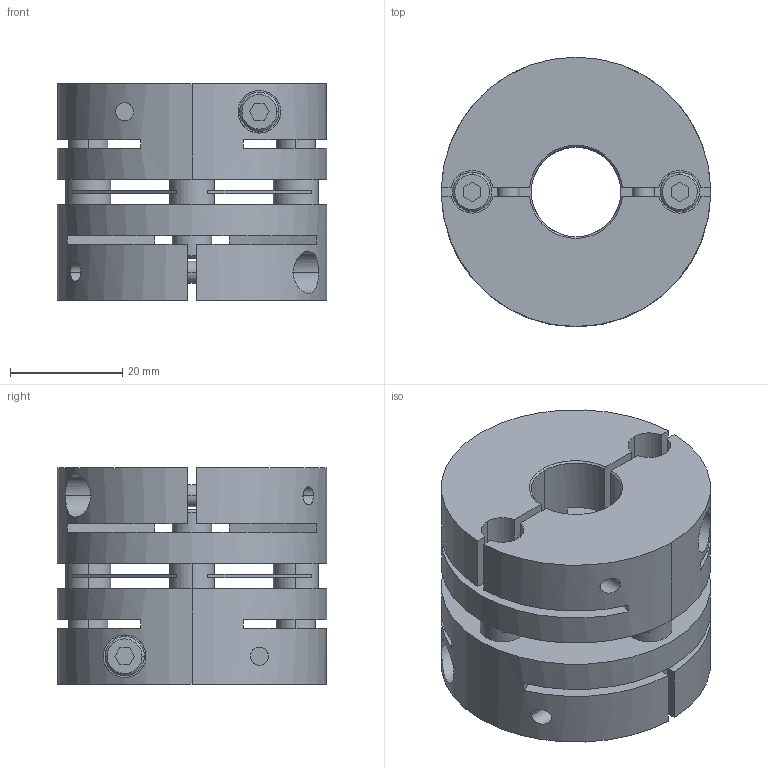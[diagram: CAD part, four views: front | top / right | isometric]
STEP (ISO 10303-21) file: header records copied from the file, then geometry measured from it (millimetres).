
FILE_DESCRIPTION((''),'2;1');
FILE_NAME('LAS-48C-16×16.stp','2011-08-09T16:53:57',(''),(''),'AutoCAD STEP 2000i','AutoCAD 2000i',', , ');
FILE_SCHEMA(('CONFIG_CONTROL_DESIGN'));
Length unit declared in the file: millimetre
Products named in the file (5): LAS-48C-12×12; 忣兜1; LA-4802-D12-1; LA-4802-D12; LAS48-ITA
Assembly tree (4 placements, depth 2):
  LAS-48C-12×12
    忣兜1
    LA-4802-D12-1
    LA-4802-D12
    LAS48-ITA
Bounding box: 48 x 48 x 38.6 mm (x, y, z)
Volume: 49023.2 mm3; surface area: 22399.7 mm2
Topology: 1 solids, 1 shells, 224 faces, 588 edges, 384 vertices
Faces by surface type: plane 112, cylinder 84, cone 28
Entity records: 7607 total; most frequent: CARTESIAN_POINT 1713, DIRECTION 1250, ORIENTED_EDGE 1176, EDGE_CURVE 588, AXIS2_PLACEMENT_3D 457, VERTEX_POINT 384, VECTOR 336, LINE 336
